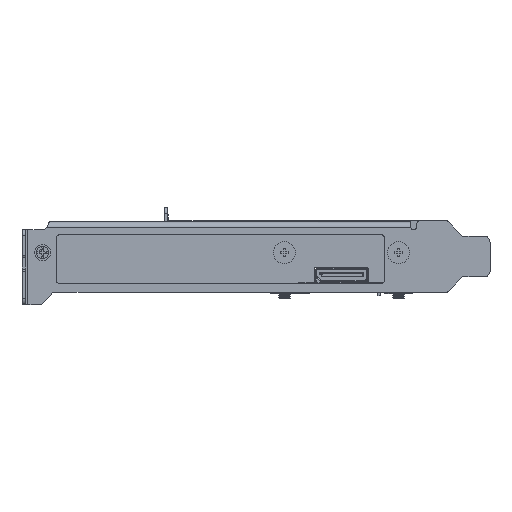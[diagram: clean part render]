
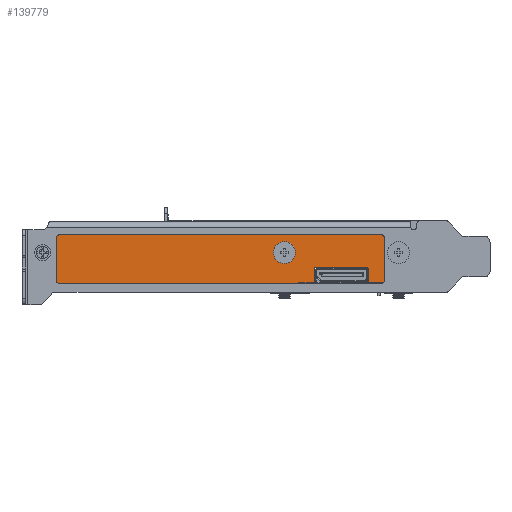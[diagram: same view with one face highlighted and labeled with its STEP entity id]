
A CAD part, left-side view. The second image highlights one B-rep face of the part: STEP entity #139779.
In plain terms, the highlighted planar face has unit normal (-1, 0, 0) as drawn and (0, 1, 0) by its records, which use the part's own axes.
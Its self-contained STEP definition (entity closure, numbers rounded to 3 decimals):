
#139779 = ADVANCED_FACE('',(#139780,#139791,#139961,#139972),#139983,.T.
  );
#139780 = FACE_BOUND('',#139781,.T.);
#139781 = EDGE_LOOP('',(#139782));
#139782 = ORIENTED_EDGE('',*,*,#139783,.F.);
#139783 = EDGE_CURVE('',#139784,#139784,#139786,.T.);
#139784 = VERTEX_POINT('',#139785);
#139785 = CARTESIAN_POINT('',(92.133,1.,-95.55));
#139786 = CIRCLE('',#139787,1.6);
#139787 = AXIS2_PLACEMENT_3D('',#139788,#139789,#139790);
#139788 = CARTESIAN_POINT('',(92.133,1.,-97.15));
#139789 = DIRECTION('',(0.,1.,0.));
#139790 = DIRECTION('',(0.,-0.,1.));
#139791 = FACE_BOUND('',#139792,.T.);
#139792 = EDGE_LOOP('',(#139793,#139804,#139812,#139820,#139829,#139837,
    #139845,#139854,#139862,#139871,#139879,#139887,#139896,#139904,
    #139912,#139921,#139929,#139938,#139946,#139955));
#139793 = ORIENTED_EDGE('',*,*,#139794,.T.);
#139794 = EDGE_CURVE('',#139795,#139797,#139799,.T.);
#139795 = VERTEX_POINT('',#139796);
#139796 = CARTESIAN_POINT('',(83.233,1.,-101.15));
#139797 = VERTEX_POINT('',#139798);
#139798 = CARTESIAN_POINT('',(82.233,1.,-100.15));
#139799 = CIRCLE('',#139800,1.);
#139800 = AXIS2_PLACEMENT_3D('',#139801,#139802,#139803);
#139801 = CARTESIAN_POINT('',(83.233,1.,-100.15));
#139802 = DIRECTION('',(0.,1.,0.));
#139803 = DIRECTION('',(0.,-0.,1.));
#139804 = ORIENTED_EDGE('',*,*,#139805,.T.);
#139805 = EDGE_CURVE('',#139797,#139806,#139808,.T.);
#139806 = VERTEX_POINT('',#139807);
#139807 = CARTESIAN_POINT('',(82.233,1.,-31.45));
#139808 = LINE('',#139809,#139810);
#139809 = CARTESIAN_POINT('',(82.233,1.,-100.15));
#139810 = VECTOR('',#139811,1.);
#139811 = DIRECTION('',(0.,0.,1.));
#139812 = ORIENTED_EDGE('',*,*,#139813,.T.);
#139813 = EDGE_CURVE('',#139806,#139814,#139816,.T.);
#139814 = VERTEX_POINT('',#139815);
#139815 = CARTESIAN_POINT('',(83.733,1.,-31.45));
#139816 = LINE('',#139817,#139818);
#139817 = CARTESIAN_POINT('',(82.233,1.,-31.45));
#139818 = VECTOR('',#139819,1.);
#139819 = DIRECTION('',(1.,0.,0.));
#139820 = ORIENTED_EDGE('',*,*,#139821,.T.);
#139821 = EDGE_CURVE('',#139814,#139822,#139824,.T.);
#139822 = VERTEX_POINT('',#139823);
#139823 = CARTESIAN_POINT('',(84.233,1.,-30.95));
#139824 = CIRCLE('',#139825,0.5);
#139825 = AXIS2_PLACEMENT_3D('',#139826,#139827,#139828);
#139826 = CARTESIAN_POINT('',(83.733,1.,-30.95));
#139827 = DIRECTION('',(-0.,-1.,0.));
#139828 = DIRECTION('',(0.,-0.,1.));
#139829 = ORIENTED_EDGE('',*,*,#139830,.T.);
#139830 = EDGE_CURVE('',#139822,#139831,#139833,.T.);
#139831 = VERTEX_POINT('',#139832);
#139832 = CARTESIAN_POINT('',(84.233,1.,-26.82));
#139833 = LINE('',#139834,#139835);
#139834 = CARTESIAN_POINT('',(84.233,1.,-30.95));
#139835 = VECTOR('',#139836,1.);
#139836 = DIRECTION('',(0.,0.,1.));
#139837 = ORIENTED_EDGE('',*,*,#139838,.T.);
#139838 = EDGE_CURVE('',#139831,#139839,#139841,.T.);
#139839 = VERTEX_POINT('',#139840);
#139840 = CARTESIAN_POINT('',(87.863,1.,-26.82));
#139841 = LINE('',#139842,#139843);
#139842 = CARTESIAN_POINT('',(84.233,1.,-26.82));
#139843 = VECTOR('',#139844,1.);
#139844 = DIRECTION('',(1.,0.,0.));
#139845 = ORIENTED_EDGE('',*,*,#139846,.T.);
#139846 = EDGE_CURVE('',#139839,#139847,#139849,.T.);
#139847 = VERTEX_POINT('',#139848);
#139848 = CARTESIAN_POINT('',(88.363,1.,-26.32));
#139849 = CIRCLE('',#139850,0.5);
#139850 = AXIS2_PLACEMENT_3D('',#139851,#139852,#139853);
#139851 = CARTESIAN_POINT('',(87.863,1.,-26.32));
#139852 = DIRECTION('',(-0.,-1.,0.));
#139853 = DIRECTION('',(0.,-0.,1.));
#139854 = ORIENTED_EDGE('',*,*,#139855,.T.);
#139855 = EDGE_CURVE('',#139847,#139856,#139858,.T.);
#139856 = VERTEX_POINT('',#139857);
#139857 = CARTESIAN_POINT('',(88.363,1.,-13.47));
#139858 = LINE('',#139859,#139860);
#139859 = CARTESIAN_POINT('',(88.363,1.,-13.47));
#139860 = VECTOR('',#139861,1.);
#139861 = DIRECTION('',(0.,-0.,1.));
#139862 = ORIENTED_EDGE('',*,*,#139863,.T.);
#139863 = EDGE_CURVE('',#139856,#139864,#139866,.T.);
#139864 = VERTEX_POINT('',#139865);
#139865 = CARTESIAN_POINT('',(87.863,1.,-12.97));
#139866 = CIRCLE('',#139867,0.5);
#139867 = AXIS2_PLACEMENT_3D('',#139868,#139869,#139870);
#139868 = CARTESIAN_POINT('',(87.863,1.,-13.47));
#139869 = DIRECTION('',(-0.,-1.,0.));
#139870 = DIRECTION('',(0.,-0.,1.));
#139871 = ORIENTED_EDGE('',*,*,#139872,.T.);
#139872 = EDGE_CURVE('',#139864,#139873,#139875,.T.);
#139873 = VERTEX_POINT('',#139874);
#139874 = CARTESIAN_POINT('',(84.233,1.,-12.97));
#139875 = LINE('',#139876,#139877);
#139876 = CARTESIAN_POINT('',(87.863,1.,-12.97));
#139877 = VECTOR('',#139878,1.);
#139878 = DIRECTION('',(-1.,0.,0.));
#139879 = ORIENTED_EDGE('',*,*,#139880,.T.);
#139880 = EDGE_CURVE('',#139873,#139881,#139883,.T.);
#139881 = VERTEX_POINT('',#139882);
#139882 = CARTESIAN_POINT('',(84.233,1.,-8.85));
#139883 = LINE('',#139884,#139885);
#139884 = CARTESIAN_POINT('',(84.233,1.,-12.97));
#139885 = VECTOR('',#139886,1.);
#139886 = DIRECTION('',(0.,0.,1.));
#139887 = ORIENTED_EDGE('',*,*,#139888,.T.);
#139888 = EDGE_CURVE('',#139881,#139889,#139891,.T.);
#139889 = VERTEX_POINT('',#139890);
#139890 = CARTESIAN_POINT('',(83.733,1.,-8.35));
#139891 = CIRCLE('',#139892,0.5);
#139892 = AXIS2_PLACEMENT_3D('',#139893,#139894,#139895);
#139893 = CARTESIAN_POINT('',(83.733,1.,-8.85));
#139894 = DIRECTION('',(-0.,-1.,0.));
#139895 = DIRECTION('',(0.,-0.,1.));
#139896 = ORIENTED_EDGE('',*,*,#139897,.T.);
#139897 = EDGE_CURVE('',#139889,#139898,#139900,.T.);
#139898 = VERTEX_POINT('',#139899);
#139899 = CARTESIAN_POINT('',(82.233,1.,-8.35));
#139900 = LINE('',#139901,#139902);
#139901 = CARTESIAN_POINT('',(83.733,1.,-8.35));
#139902 = VECTOR('',#139903,1.);
#139903 = DIRECTION('',(-1.,0.,0.));
#139904 = ORIENTED_EDGE('',*,*,#139905,.T.);
#139905 = EDGE_CURVE('',#139898,#139906,#139908,.T.);
#139906 = VERTEX_POINT('',#139907);
#139907 = CARTESIAN_POINT('',(82.233,1.,-2.15));
#139908 = LINE('',#139909,#139910);
#139909 = CARTESIAN_POINT('',(82.233,1.,-2.15));
#139910 = VECTOR('',#139911,1.);
#139911 = DIRECTION('',(0.,-0.,1.));
#139912 = ORIENTED_EDGE('',*,*,#139913,.T.);
#139913 = EDGE_CURVE('',#139906,#139914,#139916,.T.);
#139914 = VERTEX_POINT('',#139915);
#139915 = CARTESIAN_POINT('',(83.233,1.,-1.15));
#139916 = CIRCLE('',#139917,1.);
#139917 = AXIS2_PLACEMENT_3D('',#139918,#139919,#139920);
#139918 = CARTESIAN_POINT('',(83.233,1.,-2.15));
#139919 = DIRECTION('',(0.,1.,0.));
#139920 = DIRECTION('',(0.,-0.,1.));
#139921 = ORIENTED_EDGE('',*,*,#139922,.T.);
#139922 = EDGE_CURVE('',#139914,#139923,#139925,.T.);
#139923 = VERTEX_POINT('',#139924);
#139924 = CARTESIAN_POINT('',(96.733,1.,-1.15));
#139925 = LINE('',#139926,#139927);
#139926 = CARTESIAN_POINT('',(83.233,1.,-1.15));
#139927 = VECTOR('',#139928,1.);
#139928 = DIRECTION('',(1.,0.,0.));
#139929 = ORIENTED_EDGE('',*,*,#139930,.T.);
#139930 = EDGE_CURVE('',#139923,#139931,#139933,.T.);
#139931 = VERTEX_POINT('',#139932);
#139932 = CARTESIAN_POINT('',(97.733,1.,-2.15));
#139933 = CIRCLE('',#139934,1.);
#139934 = AXIS2_PLACEMENT_3D('',#139935,#139936,#139937);
#139935 = CARTESIAN_POINT('',(96.733,1.,-2.15));
#139936 = DIRECTION('',(0.,1.,0.));
#139937 = DIRECTION('',(0.,-0.,1.));
#139938 = ORIENTED_EDGE('',*,*,#139939,.T.);
#139939 = EDGE_CURVE('',#139931,#139940,#139942,.T.);
#139940 = VERTEX_POINT('',#139941);
#139941 = CARTESIAN_POINT('',(97.733,1.,-100.15));
#139942 = LINE('',#139943,#139944);
#139943 = CARTESIAN_POINT('',(97.733,1.,-100.15));
#139944 = VECTOR('',#139945,1.);
#139945 = DIRECTION('',(-0.,-0.,-1.));
#139946 = ORIENTED_EDGE('',*,*,#139947,.T.);
#139947 = EDGE_CURVE('',#139940,#139948,#139950,.T.);
#139948 = VERTEX_POINT('',#139949);
#139949 = CARTESIAN_POINT('',(96.733,1.,-101.15));
#139950 = CIRCLE('',#139951,1.);
#139951 = AXIS2_PLACEMENT_3D('',#139952,#139953,#139954);
#139952 = CARTESIAN_POINT('',(96.733,1.,-100.15));
#139953 = DIRECTION('',(0.,1.,0.));
#139954 = DIRECTION('',(0.,-0.,1.));
#139955 = ORIENTED_EDGE('',*,*,#139956,.T.);
#139956 = EDGE_CURVE('',#139948,#139795,#139957,.T.);
#139957 = LINE('',#139958,#139959);
#139958 = CARTESIAN_POINT('',(83.233,1.,-101.15));
#139959 = VECTOR('',#139960,1.);
#139960 = DIRECTION('',(-1.,-0.,0.));
#139961 = FACE_BOUND('',#139962,.T.);
#139962 = EDGE_LOOP('',(#139963));
#139963 = ORIENTED_EDGE('',*,*,#139964,.F.);
#139964 = EDGE_CURVE('',#139965,#139965,#139967,.T.);
#139965 = VERTEX_POINT('',#139966);
#139966 = CARTESIAN_POINT('',(92.133,1.,-3.55));
#139967 = CIRCLE('',#139968,1.6);
#139968 = AXIS2_PLACEMENT_3D('',#139969,#139970,#139971);
#139969 = CARTESIAN_POINT('',(92.133,1.,-5.15));
#139970 = DIRECTION('',(0.,1.,0.));
#139971 = DIRECTION('',(0.,-0.,1.));
#139972 = FACE_BOUND('',#139973,.T.);
#139973 = EDGE_LOOP('',(#139974));
#139974 = ORIENTED_EDGE('',*,*,#139975,.F.);
#139975 = EDGE_CURVE('',#139976,#139976,#139978,.T.);
#139976 = VERTEX_POINT('',#139977);
#139977 = CARTESIAN_POINT('',(92.133,1.,-33.05));
#139978 = CIRCLE('',#139979,1.6);
#139979 = AXIS2_PLACEMENT_3D('',#139980,#139981,#139982);
#139980 = CARTESIAN_POINT('',(92.133,1.,-34.65));
#139981 = DIRECTION('',(0.,1.,0.));
#139982 = DIRECTION('',(0.,-0.,1.));
#139983 = PLANE('',#139984);
#139984 = AXIS2_PLACEMENT_3D('',#139985,#139986,#139987);
#139985 = CARTESIAN_POINT('',(83.233,1.,-100.15));
#139986 = DIRECTION('',(0.,1.,0.));
#139987 = DIRECTION('',(0.,-0.,1.));
